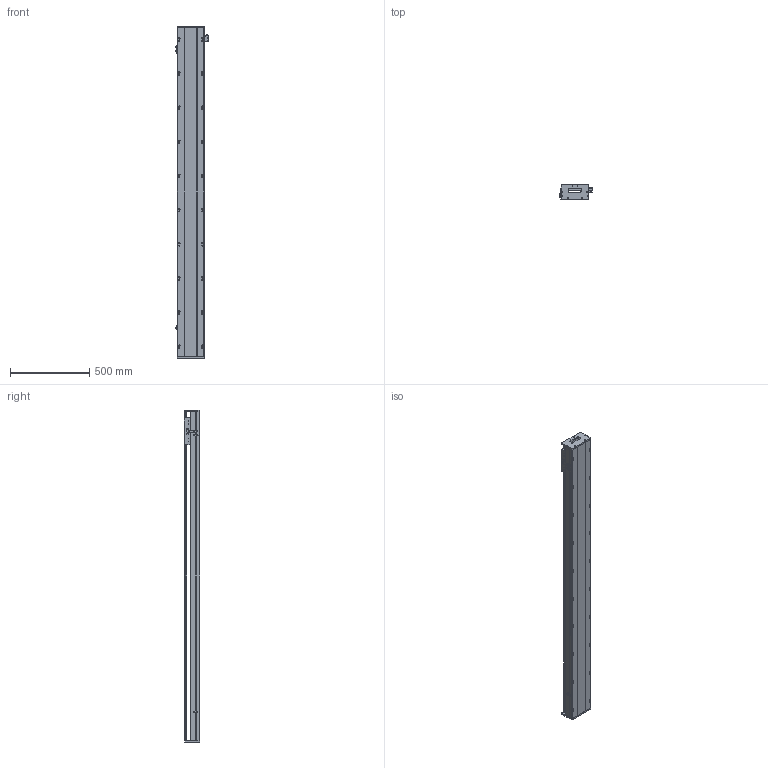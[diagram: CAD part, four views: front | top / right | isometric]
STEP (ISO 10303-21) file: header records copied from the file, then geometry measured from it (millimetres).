
FILE_DESCRIPTION (( 'STEP AP203' ), '1' );
FILE_NAME ('SKR17S-C1-S1830（简）.STEP', '2022-09-29T06:04:16', ( '' ), ( '' ), 'SwSTEP 2.0', 'SolidWorks 2018', '' );
FILE_SCHEMA (( 'CONFIG_CONTROL_DESIGN' ));
Length unit declared in the file: millimetre
Products named in the file (8): SKR17S-C1-S1830（简）; SIKO棠掑; 感应片（SKR12S-14S-17S）; SKR17滑台-170L（简）; SKR17菁釱-C1-S1830(潠); SKR17耜啣; EE-SX672; 棠掑假蚾輸
Assembly tree (10 placements, depth 2):
  SKR17S-C1-S1830（简）
    SKR17菁釱-C1-S1830(潠)
    SKR17滑台-170L（简）
    SIKO棠掑
    EE-SX672  x3
    SKR17耜啣  x2
    棠掑假蚾輸
    感应片（SKR12S-14S-17S）
Bounding box: 212.7 x 97 x 2100 mm (x, y, z)
Volume: 16134280.2 mm3; surface area: 1964642 mm2
Topology: 11 solids, 11 shells, 1281 faces, 3562 edges, 2291 vertices
Faces by surface type: cylinder 626, plane 523, cone 132
Entity records: 39814 total; most frequent: CARTESIAN_POINT 10841, ORIENTED_EDGE 6120, DIRECTION 5592, EDGE_CURVE 3060, VERTEX_POINT 1995, AXIS2_PLACEMENT_3D 1994, VECTOR 1604, LINE 1604
